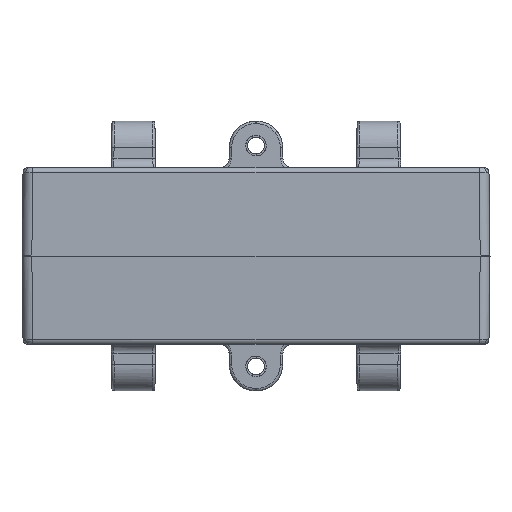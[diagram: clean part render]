
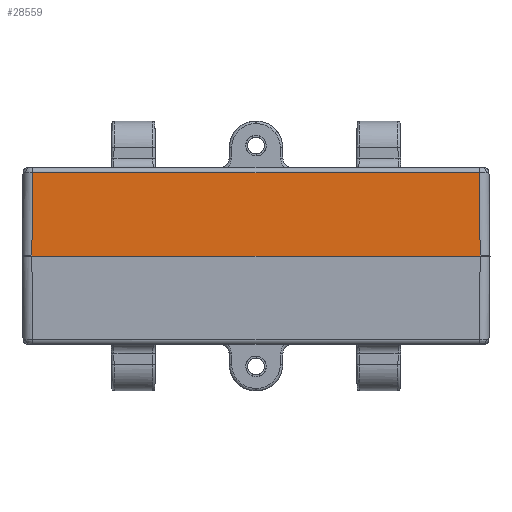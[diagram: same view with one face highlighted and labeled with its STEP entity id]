
A CAD part, front view. The second image highlights one B-rep face of the part: STEP entity #28559.
In plain terms, the highlighted planar face has unit normal (0, -1, 0.012).
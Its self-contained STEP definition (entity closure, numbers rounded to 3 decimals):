
#411 = CARTESIAN_POINT ( 'NONE',  ( -45.72, -91.22, 0. ) ) ;
#530 = VERTEX_POINT ( 'NONE', #411 ) ;
#1334 = CARTESIAN_POINT ( 'NONE',  ( -45.512, -91.012, 17.012 ) ) ;
#2161 = ORIENTED_EDGE ( 'NONE', *, *, #28188, .T. ) ;
#4041 = B_SPLINE_CURVE_WITH_KNOTS ( 'NONE', 3,
 ( #28458, #9012, #28640, #34161 ),
 .UNSPECIFIED., .F., .F.,
 ( 4, 4 ),
 ( 0., 1. ),
 .UNSPECIFIED. ) ;
#6050 = B_SPLINE_CURVE_WITH_KNOTS ( 'NONE', 3,
 ( #10088, #30071, #16404, #24176 ),
 .UNSPECIFIED., .F., .F.,
 ( 4, 4 ),
 ( 0., 1. ),
 .UNSPECIFIED. ) ;
#6720 = FACE_OUTER_BOUND ( 'NONE', #23009, .T. ) ;
#7373 = ORIENTED_EDGE ( 'NONE', *, *, #34876, .T. ) ;
#8123 = CARTESIAN_POINT ( 'NONE',  ( 45.512, -91.012, 17.012 ) ) ;
#9012 = CARTESIAN_POINT ( 'NONE',  ( 45.651, -91.151, 5.671 ) ) ;
#9892 = B_SPLINE_CURVE_WITH_KNOTS ( 'NONE', 3,
 ( #20922, #26285, #12753, #15173 ),
 .UNSPECIFIED., .F., .F.,
 ( 4, 4 ),
 ( 0., 1. ),
 .UNSPECIFIED. ) ;
#10088 = CARTESIAN_POINT ( 'NONE',  ( -45.72, -91.22, 0. ) ) ;
#10245 = CARTESIAN_POINT ( 'NONE',  ( -45.651, -91.151, 5.671 ) ) ;
#12753 = CARTESIAN_POINT ( 'NONE',  ( 15.171, -91.012, 17.012 ) ) ;
#15173 = CARTESIAN_POINT ( 'NONE',  ( 45.512, -91.012, 17.012 ) ) ;
#16404 = CARTESIAN_POINT ( 'NONE',  ( 15.24, -91.22, 0. ) ) ;
#18050 = PLANE ( 'NONE',  #27185 ) ;
#18142 = VERTEX_POINT ( 'NONE', #30508 ) ;
#20922 = CARTESIAN_POINT ( 'NONE',  ( -45.512, -91.012, 17.012 ) ) ;
#21191 = CARTESIAN_POINT ( 'NONE',  ( -45.72, -91.22, 0. ) ) ;
#22506 = EDGE_CURVE ( 'NONE', #27049, #34358, #9892, .T. ) ;
#22753 = B_SPLINE_CURVE_WITH_KNOTS ( 'NONE', 3,
 ( #1334, #24329, #10245, #21191 ),
 .UNSPECIFIED., .F., .F.,
 ( 4, 4 ),
 ( 0., 1. ),
 .UNSPECIFIED. ) ;
#22870 = ORIENTED_EDGE ( 'NONE', *, *, #22506, .F. ) ;
#23009 = EDGE_LOOP ( 'NONE', ( #7373, #2161, #22870, #28943 ) ) ;
#23607 = DIRECTION ( 'NONE',  ( 0., -1., 0.012 ) ) ;
#24176 = CARTESIAN_POINT ( 'NONE',  ( 45.72, -91.22, 0. ) ) ;
#24329 = CARTESIAN_POINT ( 'NONE',  ( -45.582, -91.081, 11.341 ) ) ;
#26285 = CARTESIAN_POINT ( 'NONE',  ( -15.171, -91.012, 17.012 ) ) ;
#27049 = VERTEX_POINT ( 'NONE', #32102 ) ;
#27185 = AXIS2_PLACEMENT_3D ( 'NONE', #34667, #23607, #32452 ) ;
#28188 = EDGE_CURVE ( 'NONE', #18142, #34358, #4041, .T. ) ;
#28458 = CARTESIAN_POINT ( 'NONE',  ( 45.72, -91.22, 0. ) ) ;
#28559 = ADVANCED_FACE ( 'NONE', ( #6720 ), #18050, .T. ) ;
#28640 = CARTESIAN_POINT ( 'NONE',  ( 45.582, -91.081, 11.341 ) ) ;
#28943 = ORIENTED_EDGE ( 'NONE', *, *, #30719, .T. ) ;
#30071 = CARTESIAN_POINT ( 'NONE',  ( -15.24, -91.22, 0. ) ) ;
#30508 = CARTESIAN_POINT ( 'NONE',  ( 45.72, -91.22, 0. ) ) ;
#30719 = EDGE_CURVE ( 'NONE', #27049, #530, #22753, .T. ) ;
#32102 = CARTESIAN_POINT ( 'NONE',  ( -45.512, -91.012, 17.012 ) ) ;
#32452 = DIRECTION ( 'NONE',  ( -1., 0., 0. ) ) ;
#34161 = CARTESIAN_POINT ( 'NONE',  ( 45.512, -91.012, 17.012 ) ) ;
#34358 = VERTEX_POINT ( 'NONE', #8123 ) ;
#34667 = CARTESIAN_POINT ( 'NONE',  ( 48., -91., 18. ) ) ;
#34876 = EDGE_CURVE ( 'NONE', #530, #18142, #6050, .T. ) ;
